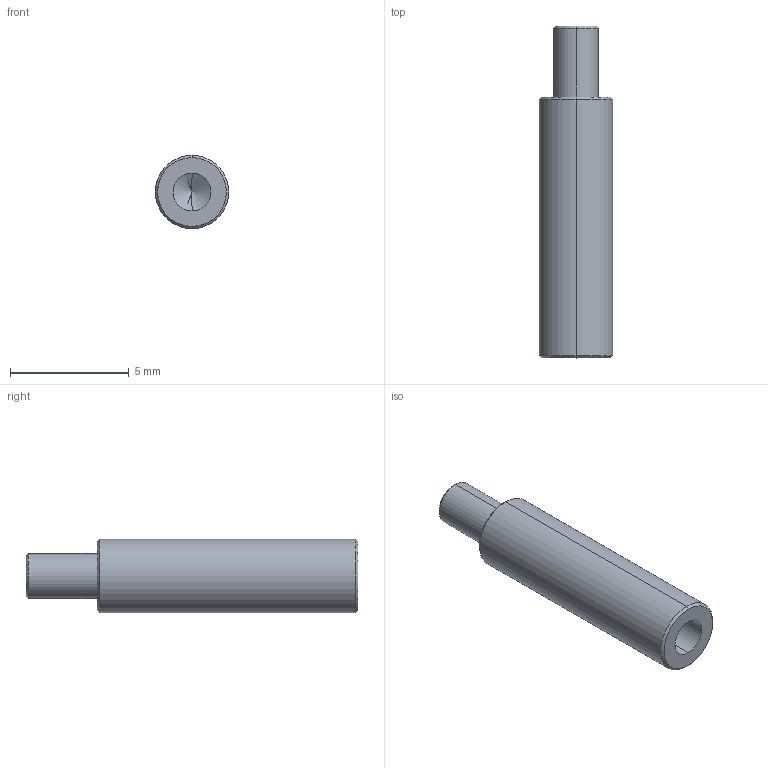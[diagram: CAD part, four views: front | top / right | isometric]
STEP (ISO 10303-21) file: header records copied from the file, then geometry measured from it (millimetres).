
FILE_DESCRIPTION (( 'STEP AP214' ), '1' );
FILE_NAME ('Long Standoff (Height 14mm, M2).STEP', '2019-02-26T02:39:24', ( '' ), ( '' ), 'SwSTEP 2.0', 'SolidWorks 2018', '' );
FILE_SCHEMA (( 'AUTOMOTIVE_DESIGN' ));
Length unit declared in the file: millimetre
Products named in the file (1): Long Standoff (Height 14mm, M2)
Bounding box: 3.1 x 14 x 3.1 mm (x, y, z)
Volume: 75 mm3; surface area: 179.1 mm2
Topology: 1 solids, 1 shells, 17 faces, 34 edges, 19 vertices
Faces by surface type: cone 8, cylinder 6, plane 3
Entity records: 462 total; most frequent: DIRECTION 86, CARTESIAN_POINT 69, ORIENTED_EDGE 64, AXIS2_PLACEMENT_3D 36, EDGE_CURVE 32, EDGE_LOOP 19, VERTEX_POINT 19, CIRCLE 18
